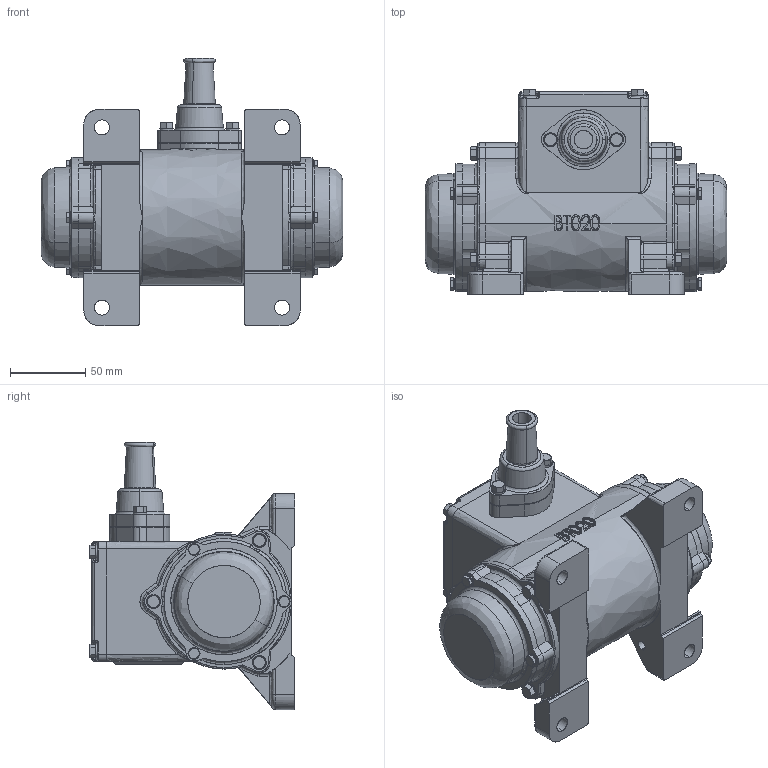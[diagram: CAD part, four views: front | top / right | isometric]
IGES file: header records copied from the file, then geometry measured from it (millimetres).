
Start section: SolidWorks IGES file using analytic representation for surfaces
Global section: file name: V:\WORK\08133\HP 寸法図\振動モータ\KM3S-2PD\IGS_STEPファイル\KM3S-2PD2.IGS; native system: SolidWorks 2018; preprocessor: SolidWorks 2018; author: n-udagawa; date: 230227.095129; units: millimetre
Bounding box: 201 x 136.68 x 178 mm (x, y, z)
Surface area: 113451.2 mm2 (no closed solid volume)
Topology: 0 solids, 0 shells, 1167 faces, 16483 edges, 19337 vertices
Faces by surface type: bspline 1164, revolution 3
